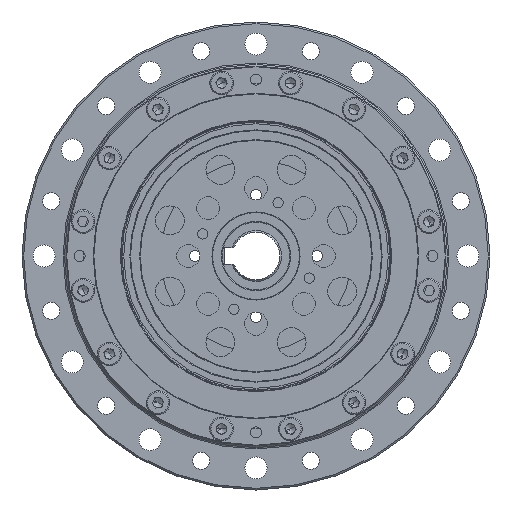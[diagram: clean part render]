
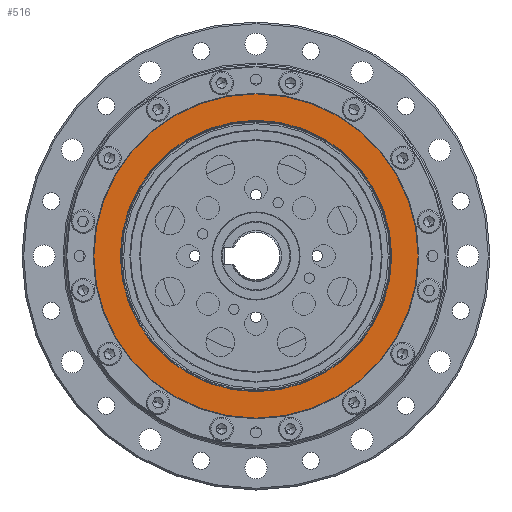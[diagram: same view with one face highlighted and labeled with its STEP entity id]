
A CAD part, left-side view. The second image highlights one B-rep face of the part: STEP entity #516.
In plain terms, the highlighted planar face has unit normal (-1, 0, 0).
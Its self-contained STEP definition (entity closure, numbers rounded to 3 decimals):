
#379 = EDGE_CURVE ( 'NONE', #5053, #6199, #11238, .T. ) ;
#423 = DIRECTION ( 'NONE',  ( -1., 0., 0. ) ) ;
#516 = ADVANCED_FACE ( 'NONE', ( #8973, #6522 ), #13125, .T. ) ;
#908 = VERTEX_POINT ( 'NONE', #10562 ) ;
#1443 = AXIS2_PLACEMENT_3D ( 'NONE', #8979, #423, #10443 ) ;
#2183 = VERTEX_POINT ( 'NONE', #3757 ) ;
#3757 = CARTESIAN_POINT ( 'NONE',  ( -40.141, -1.711, 185.8 ) ) ;
#3783 = EDGE_LOOP ( 'NONE', ( #8896, #17387 ) ) ;
#5053 = VERTEX_POINT ( 'NONE', #13439 ) ;
#5430 = CIRCLE ( 'NONE', #1443, 47.8 ) ;
#6016 = DIRECTION ( 'NONE',  ( -1., 0., 0. ) ) ;
#6165 = DIRECTION ( 'NONE',  ( 0., 0., 1. ) ) ;
#6175 = CARTESIAN_POINT ( 'NONE',  ( -40.141, -1.711, 138. ) ) ;
#6199 = VERTEX_POINT ( 'NONE', #10743 ) ;
#6522 = FACE_BOUND ( 'NONE', #13182, .T. ) ;
#7261 = EDGE_CURVE ( 'NONE', #2183, #908, #17069, .T. ) ;
#7499 = CARTESIAN_POINT ( 'NONE',  ( -40.141, -1.711, 138. ) ) ;
#8880 = AXIS2_PLACEMENT_3D ( 'NONE', #13149, #10038, #9643 ) ;
#8896 = ORIENTED_EDGE ( 'NONE', *, *, #18240, .T. ) ;
#8934 = DIRECTION ( 'NONE',  ( 0., 0., 1. ) ) ;
#8973 = FACE_OUTER_BOUND ( 'NONE', #3783, .T. ) ;
#8979 = CARTESIAN_POINT ( 'NONE',  ( -40.141, -1.711, 138. ) ) ;
#9443 = DIRECTION ( 'NONE',  ( 0., 0., 1. ) ) ;
#9643 = DIRECTION ( 'NONE',  ( 0., 0., 1. ) ) ;
#10038 = DIRECTION ( 'NONE',  ( -1., 0., 0. ) ) ;
#10443 = DIRECTION ( 'NONE',  ( 0., 0., 1. ) ) ;
#10562 = CARTESIAN_POINT ( 'NONE',  ( -40.141, -1.711, 90.2 ) ) ;
#10743 = CARTESIAN_POINT ( 'NONE',  ( -40.141, -1.711, 98. ) ) ;
#10747 = DIRECTION ( 'NONE',  ( -1., 0., 0. ) ) ;
#11047 = CIRCLE ( 'NONE', #16010, 40. ) ;
#11238 = CIRCLE ( 'NONE', #16920, 40. ) ;
#12062 = ORIENTED_EDGE ( 'NONE', *, *, #13264, .F. ) ;
#12953 = ORIENTED_EDGE ( 'NONE', *, *, #379, .F. ) ;
#13125 = PLANE ( 'NONE',  #8880 ) ;
#13149 = CARTESIAN_POINT ( 'NONE',  ( -40.141, -1.711, 138. ) ) ;
#13182 = EDGE_LOOP ( 'NONE', ( #12953, #12062 ) ) ;
#13264 = EDGE_CURVE ( 'NONE', #6199, #5053, #11047, .T. ) ;
#13439 = CARTESIAN_POINT ( 'NONE',  ( -40.141, -1.711, 178. ) ) ;
#15753 = AXIS2_PLACEMENT_3D ( 'NONE', #17815, #10747, #9443 ) ;
#16010 = AXIS2_PLACEMENT_3D ( 'NONE', #7499, #17488, #8934 ) ;
#16920 = AXIS2_PLACEMENT_3D ( 'NONE', #6175, #6016, #6165 ) ;
#17069 = CIRCLE ( 'NONE', #15753, 47.8 ) ;
#17387 = ORIENTED_EDGE ( 'NONE', *, *, #7261, .T. ) ;
#17488 = DIRECTION ( 'NONE',  ( -1., 0., 0. ) ) ;
#17815 = CARTESIAN_POINT ( 'NONE',  ( -40.141, -1.711, 138. ) ) ;
#18240 = EDGE_CURVE ( 'NONE', #908, #2183, #5430, .T. ) ;
